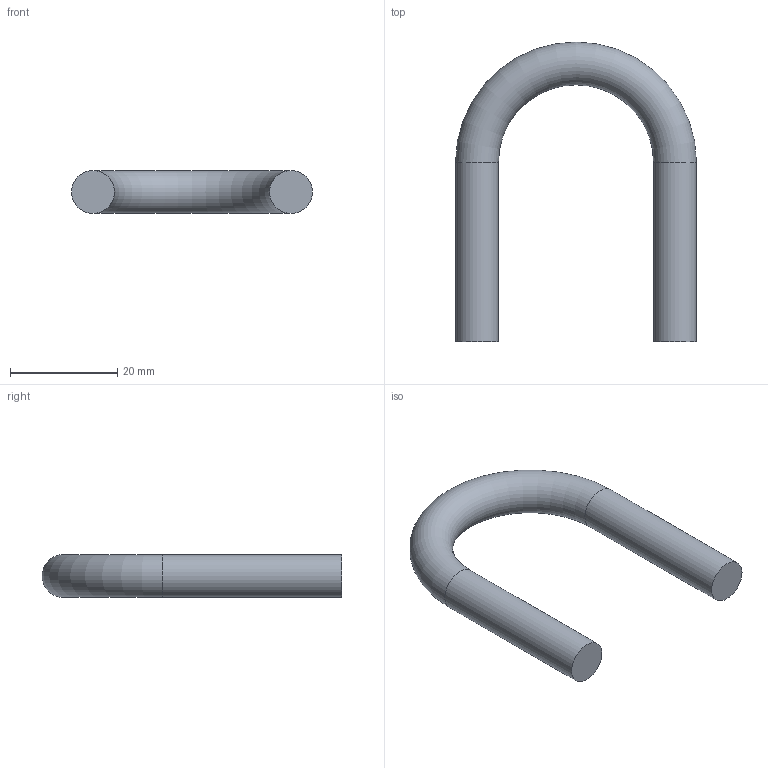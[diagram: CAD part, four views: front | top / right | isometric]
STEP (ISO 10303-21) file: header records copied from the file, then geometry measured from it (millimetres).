
FILE_DESCRIPTION(/* description */ (''),/* implementation_level */ '2;1');
FILE_NAME(/* name */ 'C:\Users\D\Documents\Inventor\各種小物\JIS\01-Uボルト2\一般配管用\20A\u-bolt-20a-m8.stp',/* time_stamp */ '2022-04-27T10:14:56+09:00',/* author */ ('D'),/* organization */ (''),/* preprocessor_version */ 'ST-DEVELOPER v18',/* originating_system */ 'Autodesk Inventor 2020',/* authorisation */ '');
FILE_SCHEMA (('AUTOMOTIVE_DESIGN { 1 0 10303 214 3 1 1 }'));
Length unit declared in the file: millimetre
Products named in the file (1): u-bolt-8a-m6
Bounding box: 45 x 56 x 8 mm (x, y, z)
Volume: 6289.2 mm3; surface area: 3245.1 mm2
Topology: 1 solids, 1 shells, 5 faces, 11 edges, 8 vertices
Faces by surface type: cylinder 2, plane 2, torus 1
Full cylindrical faces by diameter (mm): 8 x2
Entity records: 191 total; most frequent: DIRECTION 32, CARTESIAN_POINT 25, ORIENTED_EDGE 22, AXIS2_PLACEMENT_3D 15, EDGE_CURVE 11, CIRCLE 9, VERTEX_POINT 8, FACE_OUTER_BOUND 5
